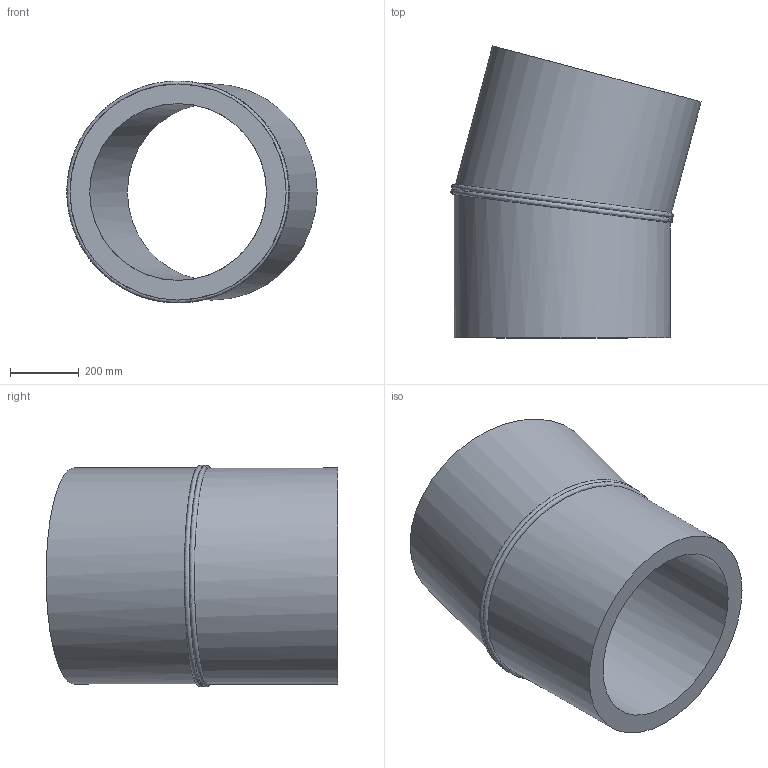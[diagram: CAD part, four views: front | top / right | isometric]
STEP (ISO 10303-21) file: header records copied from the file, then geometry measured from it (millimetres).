
FILE_DESCRIPTION(/* description */ ('Unknown'),/* implementation_level */ '2;1');
FILE_NAME(/* name */ 'Curva 15° a settore DE630 SDR11',/* time_stamp */ '2022-07-22T16:14:13+02:00',/* author */ ('Unknown'),/* organization */ ('Unknown'),/* preprocessor_version */ 'ST-DEVELOPER v18.102',/* originating_system */ 'Solid Edge',/* authorisation */ 'Unknown');
FILE_SCHEMA (('AUTOMOTIVE_DESIGN {1 0 10303 214 3 1 1}'));
Length unit declared in the file: millimetre
Products named in the file (2): Curva 15° a settore DE630 SDR11; Tubo x Gomito 15° DE630 SDR11
Assembly tree (2 placements, depth 2):
  Curva 15° a settore DE630 SDR11
    Tubo x Gomito 15° DE630 SDR11  x2
Bounding box: 730.01 x 851.13 x 646.93 mm (x, y, z)
Volume: 81001233.3 mm3; surface area: 3275593.9 mm2
Topology: 2 solids, 2 shells, 10 faces, 20 edges, 14 vertices
Faces by surface type: cylinder 4, plane 4, bspline 2
Full cylindrical faces by diameter (mm): 515.6 x2, 630 x2
Entity records: 1293 total; most frequent: CARTESIAN_POINT 1156, DIRECTION 20, ORIENTED_EDGE 10, EDGE_LOOP 10, FACE_BOUND 10, AXIS2_PLACEMENT_3D 10, EDGE_CURVE 5, VERTEX_POINT 5
